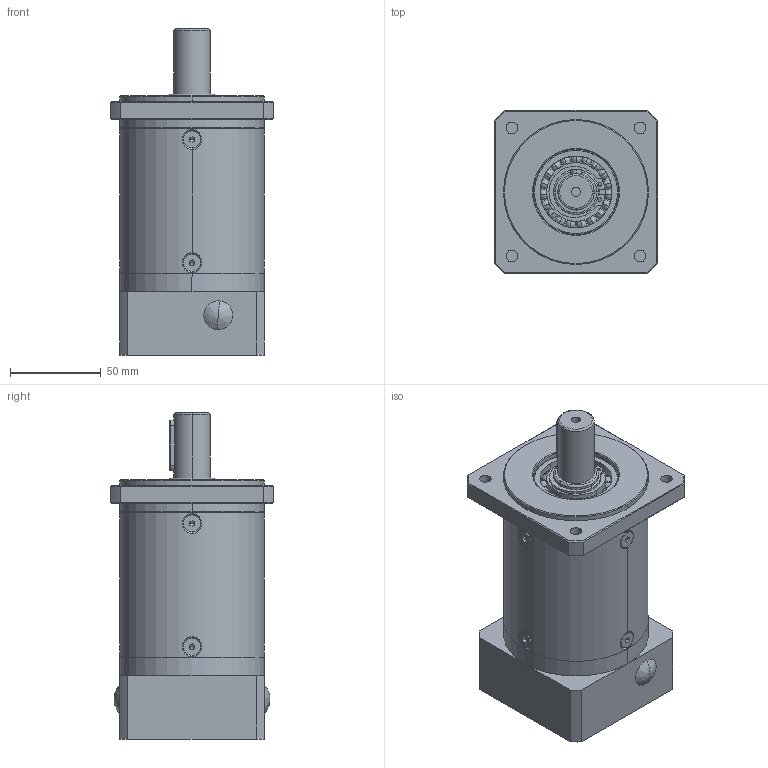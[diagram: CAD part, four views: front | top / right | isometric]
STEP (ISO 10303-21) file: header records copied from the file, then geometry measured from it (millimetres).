
FILE_DESCRIPTION (( 'STEP AP214' ), '1' );
FILE_NAME ('PF80L3-70-19-M5.STEP', '2020-09-09T03:12:44', ( '微软用户' ), ( '微软中国' ), 'SwSTEP 2.0', 'SolidWorks 2014', '' );
FILE_SCHEMA (( 'AUTOMOTIVE_DESIGN' ));
Length unit declared in the file: millimetre
Products named in the file (118): 小垫片10.4X22.5X0.5; Hexagon socket countersunk head screws GB_GB_FASTENER_SCREWS_HSCHS M5X12-N; 苤菜え5.65X13.5; 傻俴陎粣10.347; 菜え22X66X0.5; Plain parallel keys_GB_CONNECTING_PIECE_KEYS_CSK 6X28; 堤粣源傷裔; 怀堤粣I3; 80怮栠謫I8; 俴陎謫I5; Hexagon socket head cap screws GB_GB_FASTENER_SCREWS_HSHCS M5X16-N; 怮栠謫I3; 三级内齿圈; 幗渀粣創; Circlips for shaft--Type B GB_GB_CONNECTING_PIECE_RINGS_CSB 25; 路燭え37X66; 酗俴陎粣5.623; PF80L3-70-19-M5; 输入轴; 黑裔; Deep groove ball bearings GB_Rolling bearings 6005 GB 276-94; 俴陎殤I5; O型圈; 路燭え66X22; Circlips for hole--Type B GB_GB_CONNECTING_PIECE_RINGS_CHB 47; 怮栠謫I5; 俴陎謫I3; 输入端盖新; 幗渀粣創5.623X10.623; 80俴陎謫I8; 俴陎殤I8
Assembly tree (87 placements, depth 2):
  小垫片10.4X22.5X0.5
  Hexagon socket countersunk head screws GB_GB_FASTENER_SCREWS_HSCHS M5X12-N
  傻俴陎粣10.347
  苤菜え5.65X13.5
  菜え22X66X0.5
Bounding box: 90 x 90 x 180 mm (x, y, z)
Volume: 643540.8 mm3; surface area: 275507 mm2
Topology: 87 solids, 87 shells, 2408 faces, 6876 edges, 4310 vertices
Faces by surface type: cylinder 881, bspline 816, plane 414, cone 297
Entity records: 72323 total; most frequent: CARTESIAN_POINT 38080, ORIENTED_EDGE 7170, DIRECTION 5873, EDGE_CURVE 3585, AXIS2_PLACEMENT_3D 2349, VERTEX_POINT 2343, EDGE_LOOP 1450, CIRCLE 1379
